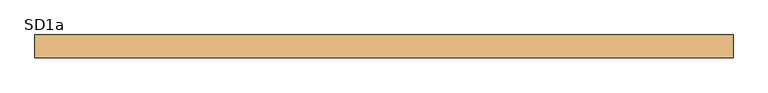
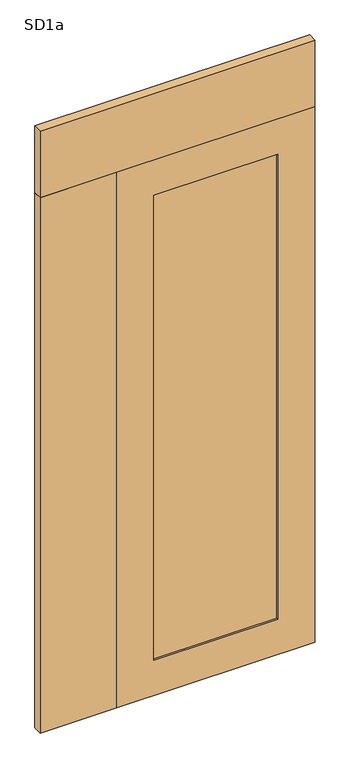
"""IFC4 building model written with IfcOpenShell, lengths in millimetres: door geometry, 営_親子扉+ランマ : SD1a."""

from ifc_helpers import new_model, si_unit, frame, origin, origin_with_axes, place, context, project, spatial, polyline, outline, extrude, source, transform, mapped, element, save


def sd1a_41ed0b53(model_context):
    return source(origin(), model_context, "Body", "SweptSolid", [
        extrude(outline(polyline([(-95.0, 52.0), (-95.0, 72.0), (405.0, 72.0), (405.0, 52.0), (-95.0, 52.0)])), frame((0.0, 0.0, 150.0), z_axis=(0.0, 0.0, 1.0), x_axis=(1.0, 0.0, 0.0)), (0.0, 0.0, 1.0), 1985.0),
        extrude(outline(polyline([(2285.0, -245.0), (0.0, -245.0), (0.0, 555.0), (2285.0, 555.0), (2285.0, -245.0)]), holes=[polyline([(2135.0, -95.0), (2135.0, 405.0), (150.0, 405.0), (150.0, -95.0), (2135.0, -95.0)])]), frame((0.0, 44.0, 0.0), z_axis=(0.0, 1.0, 0.0), x_axis=(0.0, 0.0, 1.0)), (0.0, 0.0, 1.0), 36.0),
        extrude(outline(polyline([(-245.0, 44.0), (-555.0, 44.0), (-555.0, 80.0), (-245.0, 80.0), (-245.0, 44.0)])), origin_with_axes(), (0.0, 0.0, 1.0), 2285.0),
        extrude(outline(polyline([(555.0, 44.0), (-555.0, 44.0), (-555.0, 80.0), (555.0, 80.0), (555.0, 44.0)])), frame((0.0, 0.0, 2285.0), z_axis=(0.0, 0.0, 1.0), x_axis=(1.0, 0.0, 0.0)), (0.0, 0.0, 1.0), 285.0),
    ])


if __name__ == "__main__":
    model = new_model("IFC4")
    model_context = context("Model", 3, world=origin())
    ifc_project = project(units=[si_unit("LENGTHUNIT", "METRE", prefix="MILLI")], contexts=[model_context])
    site = spatial("IfcSite", under=ifc_project)
    building = spatial("IfcBuilding", under=site)
    placement = place(None, origin())
    sd1a_shape = sd1a_41ed0b53(model_context)
    element("IfcDoor", 1, ObjectType="営_親子扉+ランマ : SD1a", at=placement, inside=building, context=model_context, shape_type="MappedRepresentation", body=[
        mapped(sd1a_shape, transform((0.0, 0.0, 0.0), x_axis=(1.0, 0.0, 0.0), y_axis=(0.0, 1.0, 0.0), z_axis=(0.0, 0.0, 1.0))),
    ])
    save(model, "model.ifc")
